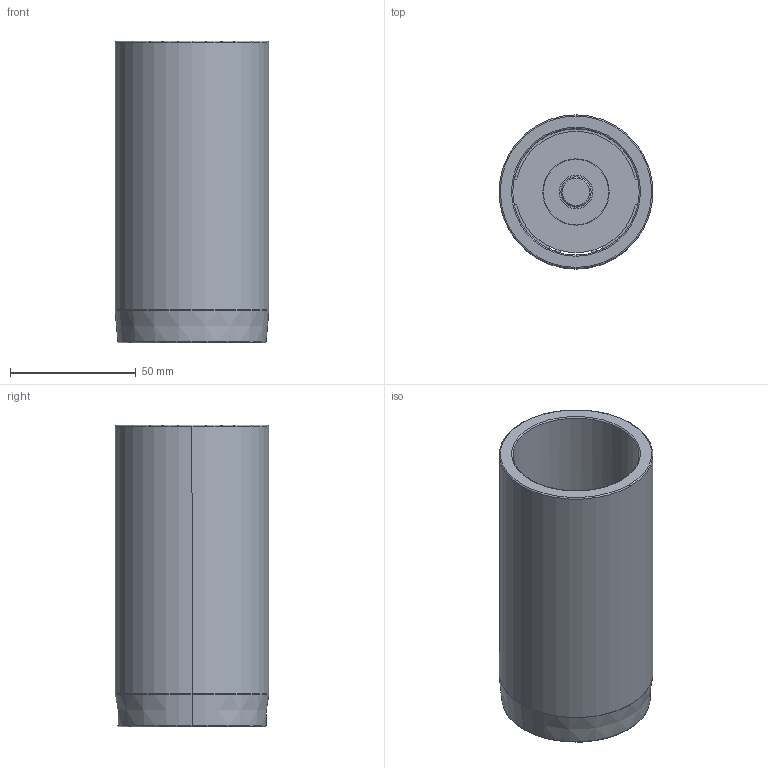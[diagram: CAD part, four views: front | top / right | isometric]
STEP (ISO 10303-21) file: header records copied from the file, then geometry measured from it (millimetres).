
FILE_DESCRIPTION((''),'2;1');
FILE_NAME('C12_050_120.stp','2009-01-28T14:16:33',(''),(''),'Mechanical Desktop 2009','Mechanical Desktop 2009',', , ');
FILE_SCHEMA(('CONFIG_CONTROL_DESIGN'));
Length unit declared in the file: millimetre
Products named in the file (2): Product; blmdl1
Assembly tree (1 placements, depth 2):
  Product
    blmdl1
Bounding box: 61.25 x 61.25 x 120 mm (x, y, z)
Volume: 121741.2 mm3; surface area: 53627.7 mm2
Topology: 5 solids, 5 shells, 79 faces, 200 edges, 134 vertices
Faces by surface type: cylinder 34, plane 29, torus 10, cone 6
Entity records: 2585 total; most frequent: DIRECTION 480, CARTESIAN_POINT 435, ORIENTED_EDGE 400, AXIS2_PLACEMENT_3D 203, EDGE_CURVE 200, VERTEX_POINT 134, CIRCLE 122, EDGE_LOOP 92
